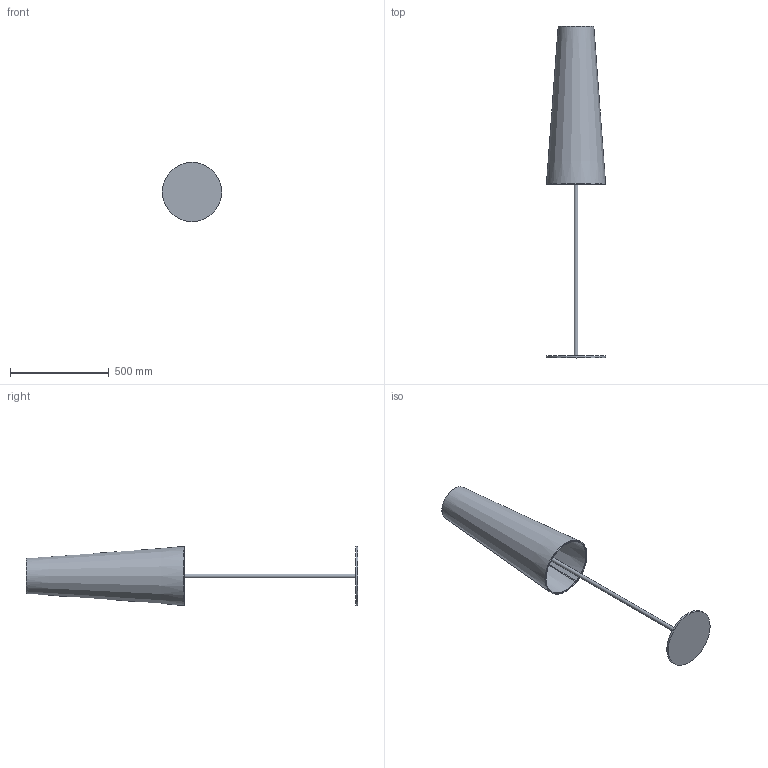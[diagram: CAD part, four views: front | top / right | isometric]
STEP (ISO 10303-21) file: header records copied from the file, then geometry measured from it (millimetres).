
FILE_DESCRIPTION(/* description */ (''),/* implementation_level */ '2;1');
FILE_NAME(/* name */ 'C:/Users/kubaw/OneDrive/Pulpit/Nowy folder/5169_UMBRELLA v4/5169_UMBRELLA v4.step',/* time_stamp */ '2021-03-13T09:48:58+01:00',/* author */ (''),/* organization */ (''),/* preprocessor_version */ 'ST-DEVELOPER v18.1',/* originating_system */ 'Autodesk Translation Framework v9.10.0.1330',/* authorisation */ '');
FILE_SCHEMA (('AUTOMOTIVE_DESIGN { 1 0 10303 214 3 1 1 }'));
Length unit declared in the file: millimetre
Products named in the file (2): 5169_UMBRELLA; MOCOWANIE2_UMBRELLA
Assembly tree (1 placements, depth 2):
  5169_UMBRELLA
    MOCOWANIE2_UMBRELLA
Bounding box: 300 x 1680 x 300 mm (x, y, z)
Volume: 2508972.7 mm3; surface area: 1508776.1 mm2
Topology: 11 solids, 11 shells, 50 faces, 75 edges, 50 vertices
Faces by surface type: plane 25, cylinder 16, torus 6, cone 2, bspline 1
Full cylindrical faces by diameter (mm): 4 x6, 20 x1, 25.9 x1, 28 x1, 43.4 x1, 50.4 x1, 70 x1, 78.4 x1, 81.2 x1, 287.093 x1, 300 x1
Entity records: 1305 total; most frequent: CARTESIAN_POINT 298, DIRECTION 232, ORIENTED_EDGE 150, AXIS2_PLACEMENT_3D 107, EDGE_CURVE 75, EDGE_LOOP 57, CIRCLE 54, FACE_OUTER_BOUND 50
